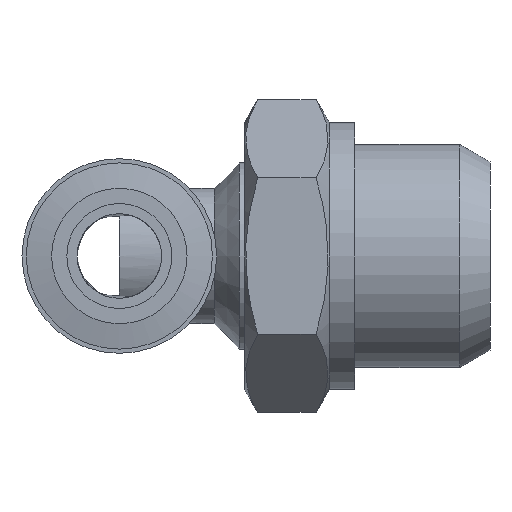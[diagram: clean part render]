
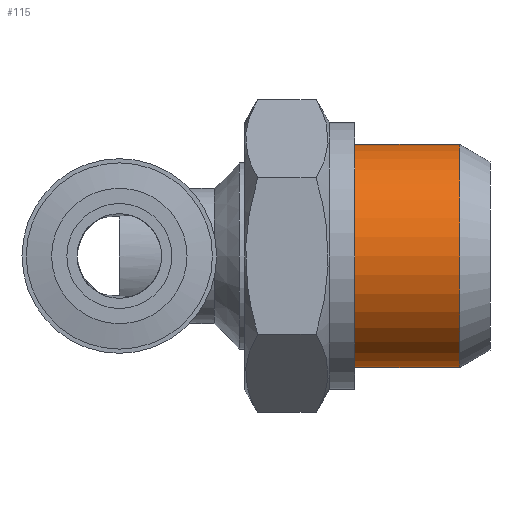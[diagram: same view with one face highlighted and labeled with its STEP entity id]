
A CAD part, front view. The second image highlights one B-rep face of the part: STEP entity #115.
In plain terms, the highlighted cylindrical face has radius 6.6 mm (diameter 13.2 mm), a full revolution.
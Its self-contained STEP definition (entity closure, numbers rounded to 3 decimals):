
#73=CARTESIAN_POINT('',(20.1,6.6,0.));
#74=VERTEX_POINT('',#73);
#75=CARTESIAN_POINT('',(20.1,0.0,0.0));
#76=DIRECTION('',(1.0,0.0,0.0));
#77=DIRECTION('',(0.0,-1.0,0.0));
#78=AXIS2_PLACEMENT_3D('',#75,#76,#77);
#79=CIRCLE('',#78,6.6);
#80=EDGE_CURVE('',#74,#74,#79,.T.);
#96=CARTESIAN_POINT('',(17.9,0.0,0.0));
#97=DIRECTION('',(1.0,0.0,0.0));
#98=DIRECTION('',(0.0,1.0,0.0));
#99=AXIS2_PLACEMENT_3D('',#96,#97,#98);
#100=CYLINDRICAL_SURFACE('',#99,6.6);
#101=CARTESIAN_POINT('',(13.9,6.6,0.0));
#102=VERTEX_POINT('',#101);
#103=CARTESIAN_POINT('',(13.9,0.0,0.0));
#104=DIRECTION('',(1.0,0.0,0.0));
#105=DIRECTION('',(0.0,1.0,0.0));
#106=AXIS2_PLACEMENT_3D('',#103,#104,#105);
#107=CIRCLE('',#106,6.6);
#108=EDGE_CURVE('',#102,#102,#107,.T.);
#109=ORIENTED_EDGE('',*,*,#108,.T.);
#110=EDGE_LOOP('',(#109));
#111=FACE_OUTER_BOUND('',#110,.T.);
#112=ORIENTED_EDGE('',*,*,#80,.F.);
#113=EDGE_LOOP('',(#112));
#114=FACE_BOUND('',#113,.T.);
#115=ADVANCED_FACE('',(#111,#114),#100,.T.);
